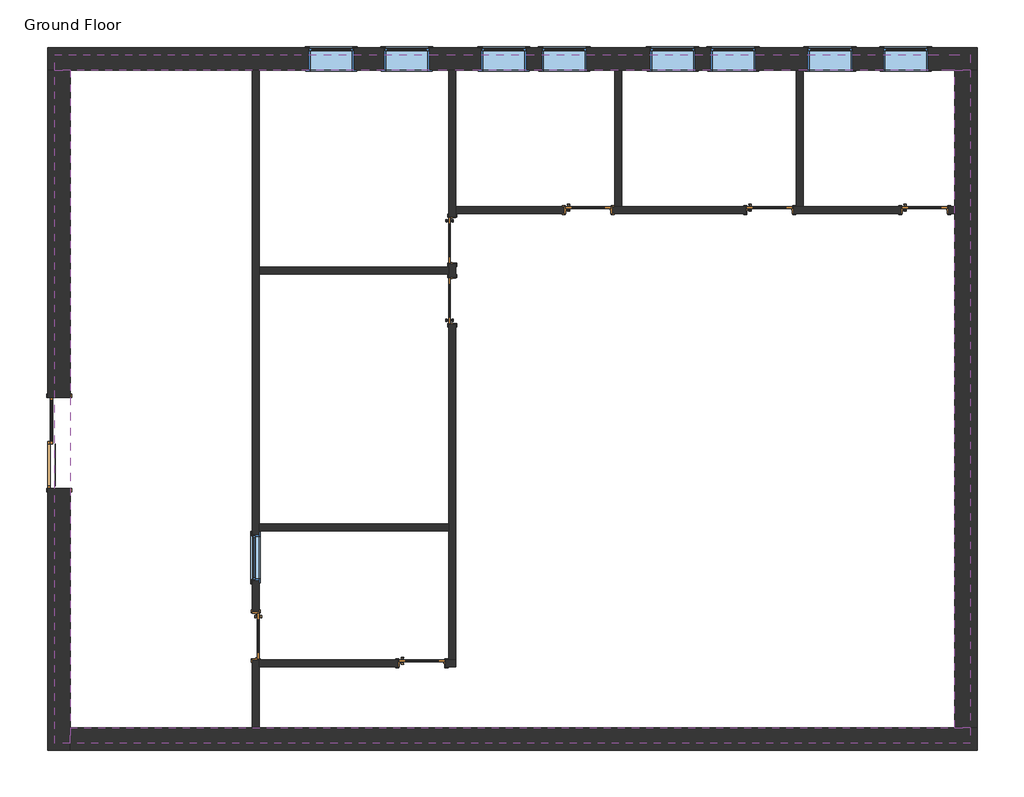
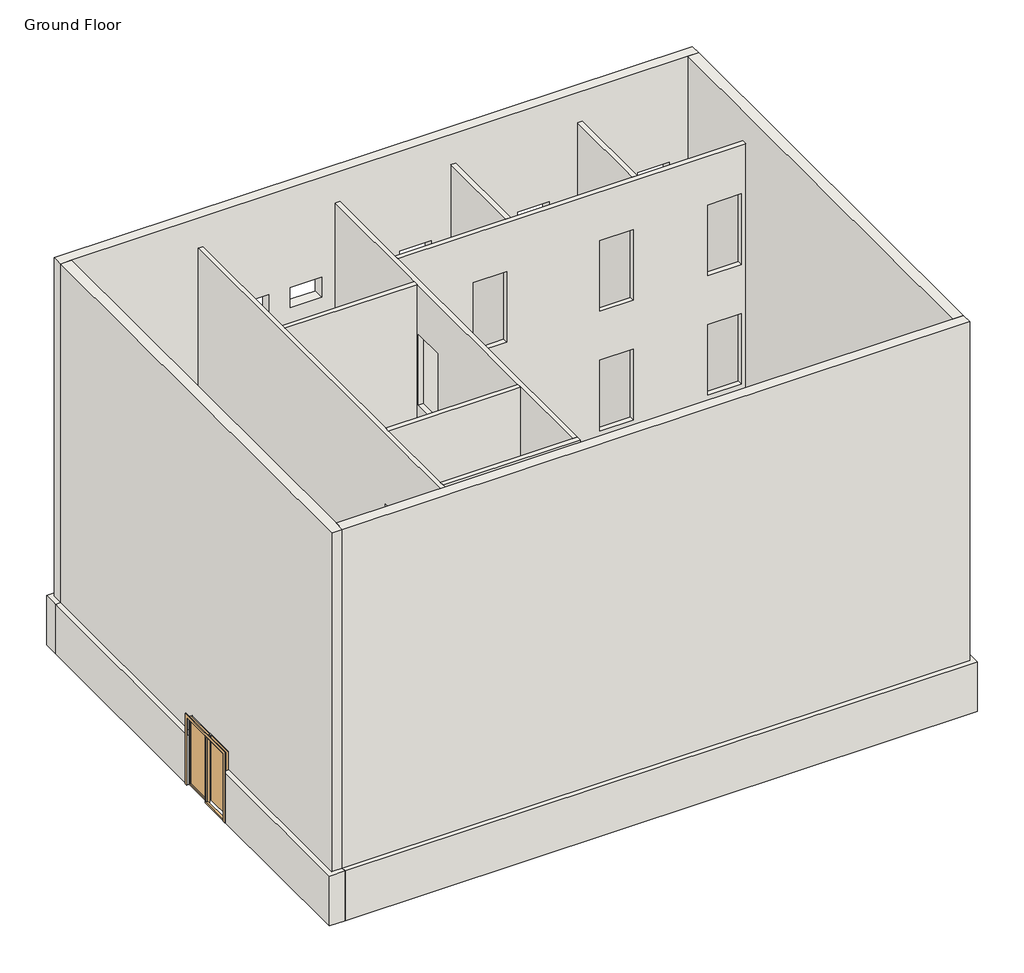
# One storey: 16 walls, 9 windows, 8 doors.
"""IFC4 building model written with IfcOpenShell, lengths in millimetres."""

from ifc_helpers import new_model, si_unit, frame, origin, origin_with_axes, place, context, project, spatial, polyline, outline, extrude, faceted_brep, transform, mapped, element, save
from components import door_82242614, door_918c180d, door_79dd3e86, window_d9bd7f0d, window_f406ef81, window_70ae8583

model = new_model("IFC4")

# Units and contexts
model_context = context("Model", 3, world=origin())
ifc_project = project(units=[si_unit("LENGTHUNIT", "METRE", prefix="MILLI")], contexts=[model_context])

# Site, building, storey
site = spatial("IfcSite", under=ifc_project)
building = spatial("IfcBuilding", under=site)
storey = spatial("IfcBuildingStorey", under=building, Name="Ground Floor", Elevation=0.0)

# Doors
placement = place(None, origin())
door_shape = door_82242614(model_context)
element("IfcDoor", 1, ObjectType="Door-Double-Sliding : 72\" x 82\"", at=placement, inside=storey, context=model_context, shape_type="MappedRepresentation", body=[
    mapped(door_shape, transform((-6006.9019416, 2157.0728101, 0.0), x_axis=(0.0, 1.0, 0.0), y_axis=(-1.0, 0.0, 0.0), z_axis=(0.0, 0.0, 1.0))),
])
door_2_shape = door_918c180d(model_context)
element("IfcDoor", 2, ObjectType="Door-Interior-Single-Full Glass-Wood : 36\" x 84\"", at=placement, inside=storey, context=model_context, shape_type="MappedRepresentation", body=[
    mapped(door_2_shape, transform((-2168.3269416, -1737.6636161, 0.0), x_axis=(0.0, -1.0, 0.0), y_axis=(1.0, 0.0, 0.0), z_axis=(0.0, 0.0, 1.0))),
])
element("IfcDoor", 3, ObjectType="Door-Interior-Single-Full Glass-Wood : 36\" x 84\"", at=placement, inside=storey, context=model_context, shape_type="MappedRepresentation", body=[
    mapped(door_2_shape, transform((1181.2980584, -2286.9386161, 0.0), x_axis=(1.0, 0.0, 0.0), y_axis=(0.0, 1.0, 0.0), z_axis=(0.0, 0.0, 1.0))),
])
element("IfcDoor", 4, ObjectType="Door-Interior-Single-Full Glass-Wood : 36\" x 84\"", at=placement, inside=storey, context=model_context, shape_type="MappedRepresentation", body=[
    mapped(door_2_shape, transform((1787.7230584, 5025.0863839, 0.0), x_axis=(0.0, 1.0, 0.0), y_axis=(-1.0, 0.0, 0.0), z_axis=(0.0, 0.0, 1.0))),
])
element("IfcDoor", 5, ObjectType="Door-Interior-Single-Full Glass-Wood : 36\" x 84\"", at=placement, inside=storey, context=model_context, shape_type="MappedRepresentation", body=[
    mapped(door_2_shape, transform((4534.0980584, 6857.0613839, 0.0), x_axis=(1.0, 0.0, 0.0), y_axis=(0.0, 1.0, 0.0), z_axis=(0.0, 0.0, 1.0))),
])
element("IfcDoor", 6, ObjectType="Door-Interior-Single-Full Glass-Wood : 36\" x 84\"", at=placement, inside=storey, context=model_context, shape_type="MappedRepresentation", body=[
    mapped(door_2_shape, transform((8191.6980584, 6857.0613839, 0.0), x_axis=(1.0, 0.0, 0.0), y_axis=(0.0, 1.0, 0.0), z_axis=(0.0, 0.0, 1.0))),
])
element("IfcDoor", 7, ObjectType="Door-Interior-Single-Full Glass-Wood : 36\" x 84\"", at=placement, inside=storey, context=model_context, shape_type="MappedRepresentation", body=[
    mapped(door_2_shape, transform((11317.4855584, 6857.0613839, 0.0), x_axis=(1.0, 0.0, 0.0), y_axis=(0.0, 1.0, 0.0), z_axis=(0.0, 0.0, 1.0))),
])
door_3_shape = door_79dd3e86(model_context)
element("IfcDoor", 8, ObjectType="Door-Interior-Single-Full Glass-Wood : 36\" x 84\"", at=placement, inside=storey, context=model_context, shape_type="MappedRepresentation", body=[
    mapped(door_3_shape, transform((1787.7230584, 6244.2863839, 0.0), x_axis=(0.0, -1.0, 0.0), y_axis=(1.0, 0.0, 0.0), z_axis=(0.0, 0.0, 1.0))),
])

# Walls
element("IfcWall", 9, ObjectType="Exterior - CMU on Mtl. Stud", at=placement, inside=storey, context=model_context, shape_type="Brep", body=[
    faceted_brep([(-6360.9144416, 9674.8738839, 0.0), (-5906.8894416, 9674.8738839, 0.0), (-2241.3519416, 9674.8738839, 0.0), (-2101.6519416, 9674.8738839, 0.0), (1721.0480584, 9674.8738839, 0.0), (1860.7480584, 9674.8738839, 0.0), (5073.8480584, 9674.8738839, 0.0), (5213.5480584, 9674.8738839, 0.0), (8731.4480584, 9674.8738839, 0.0), (8871.1480584, 9674.8738839, 0.0), (11927.0855584, 9674.8738839, 0.0), (12381.1105584, 9674.8738839, 0.0), (12381.1105584, 9674.8738839, 1524.0), (12238.2355584, 9674.8738839, 1524.0), (11927.0855584, 9674.8738839, 1524.0), (11392.0980584, 9674.8738839, 1524.0), (11392.0980584, 9674.8738839, 914.4), (10477.6980584, 9674.8738839, 914.4), (10477.6980584, 9674.8738839, 1524.0), (9868.0980584, 9674.8738839, 1524.0), (9868.0980584, 9674.8738839, 914.4), (8953.6980584, 9674.8738839, 914.4), (8953.6980584, 9674.8738839, 1524.0), (7912.2980584, 9674.8738839, 1524.0), (7912.2980584, 9674.8738839, 914.4), (6997.8980584, 9674.8738839, 914.4), (6997.8980584, 9674.8738839, 1524.0), (6693.0980584, 9674.8738839, 1524.0), (6693.0980584, 9674.8738839, 914.4), (5778.6980584, 9674.8738839, 914.4), (5778.6980584, 9674.8738839, 1524.0), (4508.6980584, 9674.8738839, 1524.0), (4508.6980584, 9674.8738839, 914.4), (3594.2980584, 9674.8738839, 914.4), (3594.2980584, 9674.8738839, 1524.0), (3289.4980584, 9674.8738839, 1524.0), (3289.4980584, 9674.8738839, 914.4), (2375.0980584, 9674.8738839, 914.4), (2375.0980584, 9674.8738839, 1524.0), (1333.6980584, 9674.8738839, 1524.0), (1333.6980584, 9674.8738839, 914.4), (419.2980584, 9674.8738839, 914.4), (419.2980584, 9674.8738839, 1524.0), (-190.3019416, 9674.8738839, 1524.0), (-190.3019416, 9674.8738839, 914.4), (-1104.7019416, 9674.8738839, 914.4), (-1104.7019416, 9674.8738839, 1524.0), (-5906.8894416, 9674.8738839, 1524.0), (-6218.0394416, 9674.8738839, 1524.0), (-6360.9144416, 9674.8738839, 1524.0), (12381.1105584, 10128.8988839, 0.0), (-6360.9144416, 10128.8988839, 0.0), (-6360.9144416, 10128.8988839, 1524.0), (-1104.7019416, 10128.8988839, 1524.0), (-1104.7019416, 10128.8988839, 914.4), (-190.3019416, 10128.8988839, 914.4), (-190.3019416, 10128.8988839, 1524.0), (419.2980584, 10128.8988839, 1524.0), (419.2980584, 10128.8988839, 914.4), (1333.6980584, 10128.8988839, 914.4), (1333.6980584, 10128.8988839, 1524.0), (2375.0980584, 10128.8988839, 1524.0), (2375.0980584, 10128.8988839, 914.4), (3289.4980584, 10128.8988839, 914.4), (3289.4980584, 10128.8988839, 1524.0), (3594.2980584, 10128.8988839, 1524.0), (3594.2980584, 10128.8988839, 914.4), (4508.6980584, 10128.8988839, 914.4), (4508.6980584, 10128.8988839, 1524.0), (5778.6980584, 10128.8988839, 1524.0), (5778.6980584, 10128.8988839, 914.4), (6693.0980584, 10128.8988839, 914.4), (6693.0980584, 10128.8988839, 1524.0), (6997.8980584, 10128.8988839, 1524.0), (6997.8980584, 10128.8988839, 914.4), (7912.2980584, 10128.8988839, 914.4), (7912.2980584, 10128.8988839, 1524.0), (8953.6980584, 10128.8988839, 1524.0), (8953.6980584, 10128.8988839, 914.4), (9868.0980584, 10128.8988839, 914.4), (9868.0980584, 10128.8988839, 1524.0), (10477.6980584, 10128.8988839, 1524.0), (10477.6980584, 10128.8988839, 914.4), (11392.0980584, 10128.8988839, 914.4), (11392.0980584, 10128.8988839, 1524.0), (12381.1105584, 10128.8988839, 1524.0)], [[[0, 1, 2, 3, 4, 5, 6, 7, 8, 9, 10, 11, 12, 13, 14, 15, 16, 17, 18, 19, 20, 21, 22, 23, 24, 25, 26, 27, 28, 29, 30, 31, 32, 33, 34, 35, 36, 37, 38, 39, 40, 41, 42, 43, 44, 45, 46, 47, 48, 49]], [[50, 51, 52, 53, 54, 55, 56, 57, 58, 59, 60, 61, 62, 63, 64, 65, 66, 67, 68, 69, 70, 71, 72, 73, 74, 75, 76, 77, 78, 79, 80, 81, 82, 83, 84, 85]], [[11, 10, 9, 8, 7, 6, 5, 4, 3, 2, 1, 0, 51, 50]], [[52, 49, 48, 47, 46, 53]], [[12, 85, 84, 15, 14, 13]], [[80, 19, 18, 81]], [[22, 77, 76, 23]], [[72, 27, 26, 73]], [[30, 69, 68, 31]], [[38, 61, 60, 39]], [[64, 35, 34, 65]], [[56, 43, 42, 57]], [[0, 49, 52, 51]], [[12, 11, 50, 85]], [[79, 20, 19, 80]], [[20, 79, 78, 21]], [[21, 78, 77, 22]], [[83, 16, 15, 84]], [[16, 83, 82, 17]], [[17, 82, 81, 18]], [[71, 28, 27, 72]], [[28, 71, 70, 29]], [[29, 70, 69, 30]], [[75, 24, 23, 76]], [[24, 75, 74, 25]], [[25, 74, 73, 26]], [[37, 62, 61, 38]], [[62, 37, 36, 63]], [[63, 36, 35, 64]], [[33, 66, 65, 34]], [[66, 33, 32, 67]], [[67, 32, 31, 68]], [[45, 54, 53, 46]], [[54, 45, 44, 55]], [[55, 44, 43, 56]], [[41, 58, 57, 42]], [[58, 41, 40, 59]], [[59, 40, 39, 60]]]),
])
element("IfcWall", 10, ObjectType="Exterior - CMU on Mtl. Stud", at=placement, inside=storey, context=model_context, shape_type="Brep", body=[
    faceted_brep([(-5906.8894416, 9674.8738839, 0.0), (-5906.8894416, 9674.8738839, 1524.0), (-5906.8894416, 3071.4728101, 1524.0), (-5906.8894416, 3071.4728101, 0.0), (-6360.9144416, 9674.8738839, 1524.0), (-6360.9144416, 9674.8738839, 0.0), (-6360.9144416, 3071.4728101, 0.0), (-6360.9144416, 3071.4728101, 1524.0), (-6218.0394416, 9674.8738839, 1524.0), (-6218.0394416, 3071.4728101, 1524.0)], [[[0, 1, 2, 3]], [[4, 5, 6, 7]], [[5, 0, 3, 6]], [[1, 8, 4, 7, 9, 2]], [[1, 0, 5, 4, 8]], [[3, 2, 9, 7, 6]]]),
    faceted_brep([(-5906.8894416, -4041.1261161, 1524.0), (-5906.8894416, -4041.1261161, 0.0), (-5906.8894416, -3587.1011161, 0.0), (-5906.8894416, 1242.6728101, 0.0), (-5906.8894416, 1242.6728101, 1524.0), (-5906.8894416, -3587.1011161, 1524.0), (-5906.8894416, -3898.2511161, 1524.0), (-6360.9144416, -4041.1261161, 0.0), (-6360.9144416, -4041.1261161, 1524.0), (-6360.9144416, 1242.6728101, 1524.0), (-6360.9144416, 1242.6728101, 0.0), (-6218.0394416, 1242.6728101, 1524.0)], [[[0, 1, 2, 3, 4, 5, 6]], [[7, 8, 9, 10]], [[1, 7, 10, 3, 2]], [[8, 0, 6, 5, 4, 11, 9]], [[1, 0, 8, 7]], [[4, 3, 10, 9, 11]]]),
])
element("IfcWall", 11, ObjectType="Exterior - CMU on Mtl. Stud", at=placement, inside=storey, context=model_context, shape_type="Brep", body=[
    faceted_brep([(12381.1105584, -3587.1011161, 0.0), (11927.0855584, -3587.1011161, 0.0), (-2101.6519416, -3587.1011161, 0.0), (-2241.3519416, -3587.1011161, 0.0), (-5906.8894416, -3587.1011161, 0.0), (-5906.8894416, -3587.1011161, 1524.0), (11927.0855584, -3587.1011161, 1524.0), (12238.2355584, -3587.1011161, 1524.0), (12381.1105584, -3587.1011161, 1524.0), (12381.1105584, -4041.1261161, 0.0), (12381.1105584, -4041.1261161, 1524.0), (-5906.8894416, -4041.1261161, 1524.0), (-5906.8894416, -4041.1261161, 0.0), (-5906.8894416, -3898.2511161, 1524.0)], [[[0, 1, 2, 3, 4, 5, 6, 7, 8]], [[9, 10, 11, 12]], [[4, 3, 2, 1, 0, 9, 12]], [[8, 7, 6, 5, 13, 11, 10]], [[0, 8, 10, 9]], [[5, 4, 12, 11, 13]]]),
])
element("IfcWall", 12, ObjectType="Exterior - CMU on Mtl. Stud", at=placement, inside=storey, context=model_context, shape_type="Brep", body=[
    faceted_brep([(11927.0855584, 9674.8738839, 0.0), (11927.0855584, 6923.7363839, 0.0), (11927.0855584, 6784.0363839, 0.0), (11927.0855584, -3587.1011161, 0.0), (11927.0855584, -3587.1011161, 1524.0), (11927.0855584, 9674.8738839, 1524.0), (12381.1105584, 9674.8738839, 0.0), (12381.1105584, 9674.8738839, 1524.0), (12381.1105584, -3587.1011161, 1524.0), (12381.1105584, -3587.1011161, 0.0), (12238.2355584, -3587.1011161, 1524.0), (12238.2355584, 9674.8738839, 1524.0)], [[[0, 1, 2, 3, 4, 5]], [[6, 7, 8, 9]], [[3, 2, 1, 0, 6, 9]], [[5, 4, 10, 8, 7, 11]], [[0, 5, 11, 7, 6]], [[4, 3, 9, 8, 10]]]),
])
element("IfcWall", 13, ObjectType="Exterior - EIFS on Mtl. Stud", at=placement, inside=storey, context=model_context, shape_type="Brep", body=[
    faceted_brep([(-6218.0394416, 9674.8738839, 1524.0), (-5906.8894416, 9674.8738839, 1524.0), (-1104.7019416, 9674.8738839, 1524.0), (-190.3019416, 9674.8738839, 1524.0), (419.2980584, 9674.8738839, 1524.0), (1333.6980584, 9674.8738839, 1524.0), (2375.0980584, 9674.8738839, 1524.0), (3289.4980584, 9674.8738839, 1524.0), (3594.2980584, 9674.8738839, 1524.0), (4508.6980584, 9674.8738839, 1524.0), (5778.6980584, 9674.8738839, 1524.0), (6693.0980584, 9674.8738839, 1524.0), (6997.8980584, 9674.8738839, 1524.0), (7912.2980584, 9674.8738839, 1524.0), (8953.6980584, 9674.8738839, 1524.0), (9868.0980584, 9674.8738839, 1524.0), (10477.6980584, 9674.8738839, 1524.0), (11392.0980584, 9674.8738839, 1524.0), (11927.0855584, 9674.8738839, 1524.0), (12238.2355584, 9674.8738839, 1524.0), (12238.2355584, 9674.8738839, 11887.2), (11927.0855584, 9674.8738839, 11887.2), (-5906.8894416, 9674.8738839, 11887.2), (-6218.0394416, 9674.8738839, 11887.2), (2375.0980584, 9674.8738839, 4572.0), (2375.0980584, 9674.8738839, 5181.6), (3289.4980584, 9674.8738839, 5181.6), (3289.4980584, 9674.8738839, 4572.0), (3594.2980584, 9674.8738839, 4572.0), (3594.2980584, 9674.8738839, 5181.6), (4508.6980584, 9674.8738839, 5181.6), (4508.6980584, 9674.8738839, 4572.0), (-1104.7019416, 9674.8738839, 4572.0), (-1104.7019416, 9674.8738839, 5181.6), (-190.3019416, 9674.8738839, 5181.6), (-190.3019416, 9674.8738839, 4572.0), (419.2980584, 9674.8738839, 4572.0), (419.2980584, 9674.8738839, 5181.6), (1333.6980584, 9674.8738839, 5181.6), (1333.6980584, 9674.8738839, 4572.0), (7912.2980584, 9674.8738839, 5181.6), (7912.2980584, 9674.8738839, 4572.0), (6997.8980584, 9674.8738839, 4572.0), (6997.8980584, 9674.8738839, 5181.6), (6693.0980584, 9674.8738839, 5181.6), (6693.0980584, 9674.8738839, 4572.0), (5778.6980584, 9674.8738839, 4572.0), (5778.6980584, 9674.8738839, 5181.6), (11392.0980584, 9674.8738839, 5181.6), (11392.0980584, 9674.8738839, 4572.0), (10477.6980584, 9674.8738839, 4572.0), (10477.6980584, 9674.8738839, 5181.6), (9868.0980584, 9674.8738839, 5181.6), (9868.0980584, 9674.8738839, 4572.0), (8953.6980584, 9674.8738839, 4572.0), (8953.6980584, 9674.8738839, 5181.6), (2375.0980584, 9674.8738839, 8229.6), (2375.0980584, 9674.8738839, 8839.2), (3289.4980584, 9674.8738839, 8839.2), (3289.4980584, 9674.8738839, 8229.6), (3594.2980584, 9674.8738839, 8229.6), (3594.2980584, 9674.8738839, 8839.2), (4508.6980584, 9674.8738839, 8839.2), (4508.6980584, 9674.8738839, 8229.6), (-1104.7019416, 9674.8738839, 8229.6), (-1104.7019416, 9674.8738839, 8839.2), (-190.3019416, 9674.8738839, 8839.2), (-190.3019416, 9674.8738839, 8229.6), (419.2980584, 9674.8738839, 8229.6), (419.2980584, 9674.8738839, 8839.2), (1333.6980584, 9674.8738839, 8839.2), (1333.6980584, 9674.8738839, 8229.6), (7912.2980584, 9674.8738839, 8839.2), (7912.2980584, 9674.8738839, 8229.6), (6997.8980584, 9674.8738839, 8229.6), (6997.8980584, 9674.8738839, 8839.2), (6693.0980584, 9674.8738839, 8839.2), (6693.0980584, 9674.8738839, 8229.6), (5778.6980584, 9674.8738839, 8229.6), (5778.6980584, 9674.8738839, 8839.2), (11392.0980584, 9674.8738839, 8839.2), (11392.0980584, 9674.8738839, 8229.6), (10477.6980584, 9674.8738839, 8229.6), (10477.6980584, 9674.8738839, 8839.2), (9868.0980584, 9674.8738839, 8839.2), (9868.0980584, 9674.8738839, 8229.6), (8953.6980584, 9674.8738839, 8229.6), (8953.6980584, 9674.8738839, 8839.2), (12238.2355584, 9986.0238839, 1524.0), (-6218.0394416, 9986.0238839, 1524.0), (-6218.0394416, 9986.0238839, 11887.2), (12238.2355584, 9986.0238839, 11887.2), (2375.0980584, 9986.0238839, 5181.6), (2375.0980584, 9986.0238839, 4572.0), (3289.4980584, 9986.0238839, 4572.0), (3289.4980584, 9986.0238839, 5181.6), (3594.2980584, 9986.0238839, 5181.6), (3594.2980584, 9986.0238839, 4572.0), (4508.6980584, 9986.0238839, 4572.0), (4508.6980584, 9986.0238839, 5181.6), (-1104.7019416, 9986.0238839, 5181.6), (-1104.7019416, 9986.0238839, 4572.0), (-190.3019416, 9986.0238839, 4572.0), (-190.3019416, 9986.0238839, 5181.6), (419.2980584, 9986.0238839, 5181.6), (419.2980584, 9986.0238839, 4572.0), (1333.6980584, 9986.0238839, 4572.0), (1333.6980584, 9986.0238839, 5181.6), (7912.2980584, 9986.0238839, 4572.0), (7912.2980584, 9986.0238839, 5181.6), (6997.8980584, 9986.0238839, 5181.6), (6997.8980584, 9986.0238839, 4572.0), (6693.0980584, 9986.0238839, 4572.0), (6693.0980584, 9986.0238839, 5181.6), (5778.6980584, 9986.0238839, 5181.6), (5778.6980584, 9986.0238839, 4572.0), (11392.0980584, 9986.0238839, 4572.0), (11392.0980584, 9986.0238839, 5181.6), (10477.6980584, 9986.0238839, 5181.6), (10477.6980584, 9986.0238839, 4572.0), (9868.0980584, 9986.0238839, 4572.0), (9868.0980584, 9986.0238839, 5181.6), (8953.6980584, 9986.0238839, 5181.6), (8953.6980584, 9986.0238839, 4572.0), (2375.0980584, 9986.0238839, 8839.2), (2375.0980584, 9986.0238839, 8229.6), (3289.4980584, 9986.0238839, 8229.6), (3289.4980584, 9986.0238839, 8839.2), (3594.2980584, 9986.0238839, 8839.2), (3594.2980584, 9986.0238839, 8229.6), (4508.6980584, 9986.0238839, 8229.6), (4508.6980584, 9986.0238839, 8839.2), (-1104.7019416, 9986.0238839, 8839.2), (-1104.7019416, 9986.0238839, 8229.6), (-190.3019416, 9986.0238839, 8229.6), (-190.3019416, 9986.0238839, 8839.2), (419.2980584, 9986.0238839, 8839.2), (419.2980584, 9986.0238839, 8229.6), (1333.6980584, 9986.0238839, 8229.6), (1333.6980584, 9986.0238839, 8839.2), (7912.2980584, 9986.0238839, 8229.6), (7912.2980584, 9986.0238839, 8839.2), (6997.8980584, 9986.0238839, 8839.2), (6997.8980584, 9986.0238839, 8229.6), (6693.0980584, 9986.0238839, 8229.6), (6693.0980584, 9986.0238839, 8839.2), (5778.6980584, 9986.0238839, 8839.2), (5778.6980584, 9986.0238839, 8229.6), (11392.0980584, 9986.0238839, 8229.6), (11392.0980584, 9986.0238839, 8839.2), (10477.6980584, 9986.0238839, 8839.2), (10477.6980584, 9986.0238839, 8229.6), (9868.0980584, 9986.0238839, 8229.6), (9868.0980584, 9986.0238839, 8839.2), (8953.6980584, 9986.0238839, 8839.2), (8953.6980584, 9986.0238839, 8229.6)], [[[0, 1, 2, 3, 4, 5, 6, 7, 8, 9, 10, 11, 12, 13, 14, 15, 16, 17, 18, 19, 20, 21, 22, 23], [24, 25, 26, 27], [28, 29, 30, 31], [32, 33, 34, 35], [36, 37, 38, 39], [40, 41, 42, 43], [44, 45, 46, 47], [48, 49, 50, 51], [52, 53, 54, 55], [56, 57, 58, 59], [60, 61, 62, 63], [64, 65, 66, 67], [68, 69, 70, 71], [72, 73, 74, 75], [76, 77, 78, 79], [80, 81, 82, 83], [84, 85, 86, 87]], [[88, 89, 90, 91], [92, 93, 94, 95], [96, 97, 98, 99], [100, 101, 102, 103], [104, 105, 106, 107], [108, 109, 110, 111], [112, 113, 114, 115], [116, 117, 118, 119], [120, 121, 122, 123], [124, 125, 126, 127], [128, 129, 130, 131], [132, 133, 134, 135], [136, 137, 138, 139], [140, 141, 142, 143], [144, 145, 146, 147], [148, 149, 150, 151], [152, 153, 154, 155]], [[19, 18, 17, 16, 15, 14, 13, 12, 11, 10, 9, 8, 7, 6, 5, 4, 3, 2, 1, 0, 89, 88]], [[23, 22, 21, 20, 91, 90]], [[0, 23, 90, 89]], [[20, 19, 88, 91]], [[92, 25, 24, 93]], [[93, 24, 27, 94]], [[94, 27, 26, 95]], [[25, 92, 95, 26]], [[96, 29, 28, 97]], [[97, 28, 31, 98]], [[98, 31, 30, 99]], [[29, 96, 99, 30]], [[100, 33, 32, 101]], [[101, 32, 35, 102]], [[102, 35, 34, 103]], [[33, 100, 103, 34]], [[104, 37, 36, 105]], [[105, 36, 39, 106]], [[106, 39, 38, 107]], [[37, 104, 107, 38]], [[40, 109, 108, 41]], [[41, 108, 111, 42]], [[42, 111, 110, 43]], [[109, 40, 43, 110]], [[44, 113, 112, 45]], [[45, 112, 115, 46]], [[46, 115, 114, 47]], [[113, 44, 47, 114]], [[48, 117, 116, 49]], [[49, 116, 119, 50]], [[50, 119, 118, 51]], [[117, 48, 51, 118]], [[52, 121, 120, 53]], [[53, 120, 123, 54]], [[54, 123, 122, 55]], [[121, 52, 55, 122]], [[124, 57, 56, 125]], [[125, 56, 59, 126]], [[126, 59, 58, 127]], [[57, 124, 127, 58]], [[128, 61, 60, 129]], [[129, 60, 63, 130]], [[130, 63, 62, 131]], [[61, 128, 131, 62]], [[132, 65, 64, 133]], [[133, 64, 67, 134]], [[134, 67, 66, 135]], [[65, 132, 135, 66]], [[136, 69, 68, 137]], [[137, 68, 71, 138]], [[138, 71, 70, 139]], [[69, 136, 139, 70]], [[72, 141, 140, 73]], [[73, 140, 143, 74]], [[74, 143, 142, 75]], [[141, 72, 75, 142]], [[76, 145, 144, 77]], [[77, 144, 147, 78]], [[78, 147, 146, 79]], [[145, 76, 79, 146]], [[80, 149, 148, 81]], [[81, 148, 151, 82]], [[82, 151, 150, 83]], [[149, 80, 83, 150]], [[84, 153, 152, 85]], [[85, 152, 155, 86]], [[86, 155, 154, 87]], [[153, 84, 87, 154]]]),
])
element("IfcWall", 14, ObjectType="Exterior - EIFS on Mtl. Stud", at=placement, inside=storey, context=model_context, shape_type="Brep", body=[
    faceted_brep([(-5906.8894416, 9674.8738839, 11887.2), (-5906.8894416, -3587.1011161, 11887.2), (-5906.8894416, -3898.2511161, 11887.2), (-5906.8894416, -3898.2511161, 1524.0), (-5906.8894416, -3587.1011161, 1524.0), (-5906.8894416, 1242.6728101, 1524.0), (-5906.8894416, 1242.6728101, 2082.8), (-5906.8894416, 3071.4728101, 2082.8), (-5906.8894416, 3071.4728101, 1524.0), (-5906.8894416, 9674.8738839, 1524.0), (-6218.0394416, -3898.2511161, 11887.2), (-6218.0394416, 9674.8738839, 11887.2), (-6218.0394416, 9674.8738839, 1524.0), (-6218.0394416, 3071.4728101, 1524.0), (-6218.0394416, 3071.4728101, 2082.8), (-6218.0394416, 1242.6728101, 2082.8), (-6218.0394416, 1242.6728101, 1524.0), (-6218.0394416, -3898.2511161, 1524.0)], [[[0, 1, 2, 3, 4, 5, 6, 7, 8, 9]], [[10, 11, 12, 13, 14, 15, 16, 17]], [[3, 17, 16, 5, 4]], [[12, 9, 8, 13]], [[2, 1, 0, 11, 10]], [[3, 2, 10, 17]], [[0, 9, 12, 11]], [[15, 6, 5, 16]], [[7, 14, 13, 8]], [[6, 15, 14, 7]]]),
])
element("IfcWall", 15, ObjectType="Exterior - EIFS on Mtl. Stud", at=placement, inside=storey, context=model_context, shape_type="Brep", body=[
    faceted_brep([(12238.2355584, -3587.1011161, 1524.0), (11927.0855584, -3587.1011161, 1524.0), (-5906.8894416, -3587.1011161, 1524.0), (-5906.8894416, -3587.1011161, 11887.2), (11927.0855584, -3587.1011161, 11887.2), (12238.2355584, -3587.1011161, 11887.2), (12238.2355584, -3898.2511161, 1524.0), (12238.2355584, -3898.2511161, 11887.2), (-5906.8894416, -3898.2511161, 11887.2), (-5906.8894416, -3898.2511161, 1524.0)], [[[0, 1, 2, 3, 4, 5]], [[6, 7, 8, 9]], [[2, 1, 0, 6, 9]], [[5, 4, 3, 8, 7]], [[0, 5, 7, 6]], [[3, 2, 9, 8]]]),
])
element("IfcWall", 16, ObjectType="Exterior - EIFS on Mtl. Stud", at=placement, inside=storey, context=model_context, shape_type="SweptSolid", body=[
    extrude(outline(polyline([(11927.0855584, -3587.1011161), (11927.0855584, 9674.8738839), (12238.2355584, 9674.8738839), (12238.2355584, -3587.1011161), (11927.0855584, -3587.1011161)])), frame((0.0, 0.0, 1524.0), z_axis=(0.0, 0.0, 1.0), x_axis=(1.0, 0.0, 0.0)), (0.0, 0.0, 1.0), 10363.2),
])
element("IfcWall", 17, ObjectType="Interior - 5 1/2\" Partition (1-hr)", at=placement, inside=storey, context=model_context, shape_type="Brep", body=[
    faceted_brep([(-2241.3519416, -3587.1011161, 10972.8), (-2241.3519416, 9674.8738839, 10972.8), (-2241.3519416, 9674.8738839, 0.0), (-2241.3519416, -1255.0636161, 0.0), (-2241.3519416, -1255.0636161, 2159.0), (-2241.3519416, -2220.2636161, 2159.0), (-2241.3519416, -2220.2636161, 0.0), (-2241.3519416, -3587.1011161, 0.0), (-2241.3519416, 300.6863839, 1524.0), (-2241.3519416, -613.7136161, 1524.0), (-2241.3519416, -613.7136161, 914.4), (-2241.3519416, 300.6863839, 914.4), (-2241.3519416, -2220.2636161, 3657.6), (-2241.3519416, -1255.0636161, 3657.6), (-2241.3519416, -1255.0636161, 5816.6), (-2241.3519416, -2220.2636161, 5816.6), (-2241.3519416, -2220.2636161, 7315.2), (-2241.3519416, -1255.0636161, 7315.2), (-2241.3519416, -1255.0636161, 9474.2), (-2241.3519416, -2220.2636161, 9474.2), (-2241.3519416, 300.6863839, 5181.6), (-2241.3519416, -613.7136161, 5181.6), (-2241.3519416, -613.7136161, 4572.0), (-2241.3519416, 300.6863839, 4572.0), (-2241.3519416, 300.6863839, 8839.2), (-2241.3519416, -613.7136161, 8839.2), (-2241.3519416, -613.7136161, 8229.6), (-2241.3519416, 300.6863839, 8229.6), (-2101.6519416, 9674.8738839, 10972.8), (-2101.6519416, 5704.5363839, 10972.8), (-2101.6519416, 5564.8363839, 10972.8), (-2101.6519416, 522.9363839, 10972.8), (-2101.6519416, 383.2363839, 10972.8), (-2101.6519416, -2220.2636161, 10972.8), (-2101.6519416, -2359.9636161, 10972.8), (-2101.6519416, -3587.1011161, 10972.8), (-2101.6519416, -3587.1011161, 0.0), (-2101.6519416, -2359.9636161, 0.0), (-2101.6519416, -2220.2636161, 0.0), (-2101.6519416, -2220.2636161, 2159.0), (-2101.6519416, -1255.0636161, 2159.0), (-2101.6519416, -1255.0636161, 0.0), (-2101.6519416, 383.2363839, 0.0), (-2101.6519416, 522.9363839, 0.0), (-2101.6519416, 5564.8363839, 0.0), (-2101.6519416, 5704.5363839, 0.0), (-2101.6519416, 9674.8738839, 0.0), (-2101.6519416, 300.6863839, 1524.0), (-2101.6519416, 300.6863839, 914.4), (-2101.6519416, -613.7136161, 914.4), (-2101.6519416, -613.7136161, 1524.0), (-2101.6519416, -2220.2636161, 3657.6), (-2101.6519416, -2220.2636161, 5816.6), (-2101.6519416, -1255.0636161, 5816.6), (-2101.6519416, -1255.0636161, 3657.6), (-2101.6519416, -2220.2636161, 7315.2), (-2101.6519416, -2220.2636161, 9474.2), (-2101.6519416, -1255.0636161, 9474.2), (-2101.6519416, -1255.0636161, 7315.2), (-2101.6519416, 300.6863839, 5181.6), (-2101.6519416, 300.6863839, 4572.0), (-2101.6519416, -613.7136161, 4572.0), (-2101.6519416, -613.7136161, 5181.6), (-2101.6519416, 300.6863839, 8839.2), (-2101.6519416, 300.6863839, 8229.6), (-2101.6519416, -613.7136161, 8229.6), (-2101.6519416, -613.7136161, 8839.2)], [[[0, 1, 2, 3, 4, 5, 6, 7], [8, 9, 10, 11], [12, 13, 14, 15], [16, 17, 18, 19], [20, 21, 22, 23], [24, 25, 26, 27]], [[28, 29, 30, 31, 32, 33, 34, 35, 36, 37, 38, 39, 40, 41, 42, 43, 44, 45, 46], [47, 48, 49, 50], [51, 52, 53, 54], [55, 56, 57, 58], [59, 60, 61, 62], [63, 64, 65, 66]], [[2, 46, 45, 44, 43, 42, 41, 3]], [[36, 7, 6, 38, 37]], [[1, 0, 35, 34, 33, 32, 31, 30, 29, 28]], [[46, 2, 1, 28]], [[7, 36, 35, 0]], [[5, 39, 38, 6]], [[39, 5, 4, 40]], [[40, 4, 3, 41]], [[48, 47, 8, 11]], [[49, 48, 11, 10]], [[50, 49, 10, 9]], [[47, 50, 9, 8]], [[52, 51, 12, 15]], [[53, 52, 15, 14]], [[54, 53, 14, 13]], [[51, 54, 13, 12]], [[56, 55, 16, 19]], [[57, 56, 19, 18]], [[58, 57, 18, 17]], [[55, 58, 17, 16]], [[60, 59, 20, 23]], [[61, 60, 23, 22]], [[62, 61, 22, 21]], [[59, 62, 21, 20]], [[64, 63, 24, 27]], [[65, 64, 27, 26]], [[66, 65, 26, 25]], [[63, 66, 25, 24]]]),
])
element("IfcWall", 18, ObjectType="Interior - 5 1/2\" Partition (1-hr)", at=placement, inside=storey, context=model_context, shape_type="Brep", body=[
    faceted_brep([(1860.7480584, -2359.9636161, 10972.8), (-2101.6519416, -2359.9636161, 10972.8), (-2101.6519416, -2359.9636161, 0.0), (698.6980584, -2359.9636161, 0.0), (698.6980584, -2359.9636161, 2159.0), (1663.8980584, -2359.9636161, 2159.0), (1663.8980584, -2359.9636161, 0.0), (1860.7480584, -2359.9636161, 0.0), (1663.8980584, -2359.9636161, 3657.6), (698.6980584, -2359.9636161, 3657.6), (698.6980584, -2359.9636161, 5816.6), (1663.8980584, -2359.9636161, 5816.6), (1663.8980584, -2359.9636161, 7315.2), (698.6980584, -2359.9636161, 7315.2), (698.6980584, -2359.9636161, 9474.2), (1663.8980584, -2359.9636161, 9474.2), (-2101.6519416, -2220.2636161, 10972.8), (1721.0480584, -2220.2636161, 10972.8), (1860.7480584, -2220.2636161, 10972.8), (1860.7480584, -2220.2636161, 0.0), (1721.0480584, -2220.2636161, 0.0), (1663.8980584, -2220.2636161, 0.0), (1663.8980584, -2220.2636161, 2159.0), (698.6980584, -2220.2636161, 2159.0), (698.6980584, -2220.2636161, 0.0), (-2101.6519416, -2220.2636161, 0.0), (-2101.6519416, -2220.2636161, 2159.0), (-2101.6519416, -2220.2636161, 3657.6), (-2101.6519416, -2220.2636161, 5816.6), (-2101.6519416, -2220.2636161, 7315.2), (-2101.6519416, -2220.2636161, 9474.2), (1663.8980584, -2220.2636161, 3657.6), (1663.8980584, -2220.2636161, 5816.6), (698.6980584, -2220.2636161, 5816.6), (698.6980584, -2220.2636161, 3657.6), (1663.8980584, -2220.2636161, 7315.2), (1663.8980584, -2220.2636161, 9474.2), (698.6980584, -2220.2636161, 9474.2), (698.6980584, -2220.2636161, 7315.2)], [[[0, 1, 2, 3, 4, 5, 6, 7], [8, 9, 10, 11], [12, 13, 14, 15]], [[16, 17, 18, 19, 20, 21, 22, 23, 24, 25, 26, 27, 28, 29, 30], [31, 32, 33, 34], [35, 36, 37, 38]], [[2, 25, 24, 3]], [[19, 7, 6, 21, 20]], [[1, 0, 18, 17, 16]], [[2, 1, 16, 30, 29, 28, 27, 26, 25]], [[0, 7, 19, 18]], [[5, 22, 21, 6]], [[22, 5, 4, 23]], [[23, 4, 3, 24]], [[32, 31, 8, 11]], [[33, 32, 11, 10]], [[34, 33, 10, 9]], [[31, 34, 9, 8]], [[36, 35, 12, 15]], [[37, 36, 15, 14]], [[38, 37, 14, 13]], [[35, 38, 13, 12]]]),
])
element("IfcWall", 19, ObjectType="Interior - 5 1/2\" Partition (1-hr)", at=placement, inside=storey, context=model_context, shape_type="Brep", body=[
    faceted_brep([(1860.7480584, 9674.8738839, 10972.8), (1860.7480584, 6923.7363839, 10972.8), (1860.7480584, 6784.0363839, 10972.8), (1860.7480584, -2220.2636161, 10972.8), (1860.7480584, -2220.2636161, 0.0), (1860.7480584, 4542.4863839, 0.0), (1860.7480584, 4542.4863839, 2159.0), (1860.7480584, 5507.6863839, 2159.0), (1860.7480584, 5507.6863839, 0.0), (1860.7480584, 5761.6863839, 0.0), (1860.7480584, 5761.6863839, 2159.0), (1860.7480584, 6726.8863839, 2159.0), (1860.7480584, 6726.8863839, 0.0), (1860.7480584, 6784.0363839, 0.0), (1860.7480584, 6923.7363839, 0.0), (1860.7480584, 9674.8738839, 0.0), (1860.7480584, 5761.6863839, 3657.6), (1860.7480584, 5761.6863839, 5816.6), (1860.7480584, 6726.8863839, 5816.6), (1860.7480584, 6726.8863839, 3657.6), (1860.7480584, 5507.6863839, 3657.6), (1860.7480584, 4542.4863839, 3657.6), (1860.7480584, 4542.4863839, 5816.6), (1860.7480584, 5507.6863839, 5816.6), (1860.7480584, 5761.6863839, 7315.2), (1860.7480584, 5761.6863839, 9474.2), (1860.7480584, 6726.8863839, 9474.2), (1860.7480584, 6726.8863839, 7315.2), (1860.7480584, 5507.6863839, 7315.2), (1860.7480584, 4542.4863839, 7315.2), (1860.7480584, 4542.4863839, 9474.2), (1860.7480584, 5507.6863839, 9474.2), (1721.0480584, -2220.2636161, 10972.8), (1721.0480584, 383.2363839, 10972.8), (1721.0480584, 522.9363839, 10972.8), (1721.0480584, 5564.8363839, 10972.8), (1721.0480584, 5704.5363839, 10972.8), (1721.0480584, 9674.8738839, 10972.8), (1721.0480584, 9674.8738839, 0.0), (1721.0480584, 6726.8863839, 0.0), (1721.0480584, 6726.8863839, 2159.0), (1721.0480584, 5761.6863839, 2159.0), (1721.0480584, 5761.6863839, 0.0), (1721.0480584, 5704.5363839, 0.0), (1721.0480584, 5564.8363839, 0.0), (1721.0480584, 5507.6863839, 0.0), (1721.0480584, 5507.6863839, 2159.0), (1721.0480584, 4542.4863839, 2159.0), (1721.0480584, 4542.4863839, 0.0), (1721.0480584, 522.9363839, 0.0), (1721.0480584, 383.2363839, 0.0), (1721.0480584, -2220.2636161, 0.0), (1721.0480584, 5761.6863839, 3657.6), (1721.0480584, 6726.8863839, 3657.6), (1721.0480584, 6726.8863839, 5816.6), (1721.0480584, 5761.6863839, 5816.6), (1721.0480584, 5507.6863839, 3657.6), (1721.0480584, 5507.6863839, 5816.6), (1721.0480584, 4542.4863839, 5816.6), (1721.0480584, 4542.4863839, 3657.6), (1721.0480584, 5761.6863839, 7315.2), (1721.0480584, 6726.8863839, 7315.2), (1721.0480584, 6726.8863839, 9474.2), (1721.0480584, 5761.6863839, 9474.2), (1721.0480584, 5507.6863839, 7315.2), (1721.0480584, 5507.6863839, 9474.2), (1721.0480584, 4542.4863839, 9474.2), (1721.0480584, 4542.4863839, 7315.2)], [[[0, 1, 2, 3, 4, 5, 6, 7, 8, 9, 10, 11, 12, 13, 14, 15], [16, 17, 18, 19], [20, 21, 22, 23], [24, 25, 26, 27], [28, 29, 30, 31]], [[32, 33, 34, 35, 36, 37, 38, 39, 40, 41, 42, 43, 44, 45, 46, 47, 48, 49, 50, 51], [52, 53, 54, 55], [56, 57, 58, 59], [60, 61, 62, 63], [64, 65, 66, 67]], [[4, 51, 50, 49, 48, 5]], [[38, 15, 14, 13, 12, 39]], [[8, 45, 44, 43, 42, 9]], [[3, 2, 1, 0, 37, 36, 35, 34, 33, 32]], [[4, 3, 32, 51]], [[15, 38, 37, 0]], [[7, 46, 45, 8]], [[46, 7, 6, 47]], [[47, 6, 5, 48]], [[41, 10, 9, 42]], [[10, 41, 40, 11]], [[11, 40, 39, 12]], [[17, 16, 52, 55]], [[18, 17, 55, 54]], [[19, 18, 54, 53]], [[16, 19, 53, 52]], [[57, 56, 20, 23]], [[58, 57, 23, 22]], [[59, 58, 22, 21]], [[56, 59, 21, 20]], [[25, 24, 60, 63]], [[26, 25, 63, 62]], [[27, 26, 62, 61]], [[24, 27, 61, 60]], [[65, 64, 28, 31]], [[66, 65, 31, 30]], [[67, 66, 30, 29]], [[64, 67, 29, 28]]]),
])
element("IfcWall", 20, ObjectType="Interior - 5 1/2\" Partition (1-hr)", at=placement, inside=storey, context=model_context, shape_type="Brep", body=[
    faceted_brep([(11927.0855584, 6784.0363839, 10972.8), (1860.7480584, 6784.0363839, 10972.8), (1860.7480584, 6784.0363839, 0.0), (4051.4980584, 6784.0363839, 0.0), (4051.4980584, 6784.0363839, 2159.0), (5016.6980584, 6784.0363839, 2159.0), (5016.6980584, 6784.0363839, 0.0), (7709.0980584, 6784.0363839, 0.0), (7709.0980584, 6784.0363839, 2159.0), (8674.2980584, 6784.0363839, 2159.0), (8674.2980584, 6784.0363839, 0.0), (10834.8855584, 6784.0363839, 0.0), (10834.8855584, 6784.0363839, 2159.0), (11800.0855584, 6784.0363839, 2159.0), (11800.0855584, 6784.0363839, 0.0), (11927.0855584, 6784.0363839, 0.0), (11800.0855584, 6784.0363839, 3657.6), (10834.8855584, 6784.0363839, 3657.6), (10834.8855584, 6784.0363839, 5816.6), (11800.0855584, 6784.0363839, 5816.6), (8674.2980584, 6784.0363839, 3657.6), (7709.0980584, 6784.0363839, 3657.6), (7709.0980584, 6784.0363839, 5816.6), (8674.2980584, 6784.0363839, 5816.6), (5016.6980584, 6784.0363839, 3657.6), (4051.4980584, 6784.0363839, 3657.6), (4051.4980584, 6784.0363839, 5816.6), (5016.6980584, 6784.0363839, 5816.6), (11800.0855584, 6784.0363839, 7315.2), (10834.8855584, 6784.0363839, 7315.2), (10834.8855584, 6784.0363839, 9474.2), (11800.0855584, 6784.0363839, 9474.2), (8674.2980584, 6784.0363839, 7315.2), (7709.0980584, 6784.0363839, 7315.2), (7709.0980584, 6784.0363839, 9474.2), (8674.2980584, 6784.0363839, 9474.2), (5016.6980584, 6784.0363839, 7315.2), (4051.4980584, 6784.0363839, 7315.2), (4051.4980584, 6784.0363839, 9474.2), (5016.6980584, 6784.0363839, 9474.2), (1860.7480584, 6923.7363839, 10972.8), (5073.8480584, 6923.7363839, 10972.8), (5213.5480584, 6923.7363839, 10972.8), (8731.4480584, 6923.7363839, 10972.8), (8871.1480584, 6923.7363839, 10972.8), (11927.0855584, 6923.7363839, 10972.8), (11927.0855584, 6923.7363839, 0.0), (11800.0855584, 6923.7363839, 0.0), (11800.0855584, 6923.7363839, 2159.0), (10834.8855584, 6923.7363839, 2159.0), (10834.8855584, 6923.7363839, 0.0), (8871.1480584, 6923.7363839, 0.0), (8731.4480584, 6923.7363839, 0.0), (8674.2980584, 6923.7363839, 0.0), (8674.2980584, 6923.7363839, 2159.0), (7709.0980584, 6923.7363839, 2159.0), (7709.0980584, 6923.7363839, 0.0), (5213.5480584, 6923.7363839, 0.0), (5073.8480584, 6923.7363839, 0.0), (5016.6980584, 6923.7363839, 0.0), (5016.6980584, 6923.7363839, 2159.0), (4051.4980584, 6923.7363839, 2159.0), (4051.4980584, 6923.7363839, 0.0), (1860.7480584, 6923.7363839, 0.0), (11800.0855584, 6923.7363839, 3657.6), (11800.0855584, 6923.7363839, 5816.6), (10834.8855584, 6923.7363839, 5816.6), (10834.8855584, 6923.7363839, 3657.6), (8674.2980584, 6923.7363839, 3657.6), (8674.2980584, 6923.7363839, 5816.6), (7709.0980584, 6923.7363839, 5816.6), (7709.0980584, 6923.7363839, 3657.6), (5016.6980584, 6923.7363839, 3657.6), (5016.6980584, 6923.7363839, 5816.6), (4051.4980584, 6923.7363839, 5816.6), (4051.4980584, 6923.7363839, 3657.6), (11800.0855584, 6923.7363839, 7315.2), (11800.0855584, 6923.7363839, 9474.2), (10834.8855584, 6923.7363839, 9474.2), (10834.8855584, 6923.7363839, 7315.2), (8674.2980584, 6923.7363839, 7315.2), (8674.2980584, 6923.7363839, 9474.2), (7709.0980584, 6923.7363839, 9474.2), (7709.0980584, 6923.7363839, 7315.2), (5016.6980584, 6923.7363839, 7315.2), (5016.6980584, 6923.7363839, 9474.2), (4051.4980584, 6923.7363839, 9474.2), (4051.4980584, 6923.7363839, 7315.2)], [[[0, 1, 2, 3, 4, 5, 6, 7, 8, 9, 10, 11, 12, 13, 14, 15], [16, 17, 18, 19], [20, 21, 22, 23], [24, 25, 26, 27], [28, 29, 30, 31], [32, 33, 34, 35], [36, 37, 38, 39]], [[40, 41, 42, 43, 44, 45, 46, 47, 48, 49, 50, 51, 52, 53, 54, 55, 56, 57, 58, 59, 60, 61, 62, 63], [64, 65, 66, 67], [68, 69, 70, 71], [72, 73, 74, 75], [76, 77, 78, 79], [80, 81, 82, 83], [84, 85, 86, 87]], [[2, 63, 62, 3]], [[46, 15, 14, 47]], [[6, 59, 58, 57, 56, 7]], [[10, 53, 52, 51, 50, 11]], [[1, 0, 45, 44, 43, 42, 41, 40]], [[15, 46, 45, 0]], [[2, 1, 40, 63]], [[5, 60, 59, 6]], [[60, 5, 4, 61]], [[61, 4, 3, 62]], [[9, 54, 53, 10]], [[54, 9, 8, 55]], [[55, 8, 7, 56]], [[13, 48, 47, 14]], [[48, 13, 12, 49]], [[49, 12, 11, 50]], [[65, 64, 16, 19]], [[66, 65, 19, 18]], [[67, 66, 18, 17]], [[64, 67, 17, 16]], [[69, 68, 20, 23]], [[70, 69, 23, 22]], [[71, 70, 22, 21]], [[68, 71, 21, 20]], [[73, 72, 24, 27]], [[74, 73, 27, 26]], [[75, 74, 26, 25]], [[72, 75, 25, 24]], [[77, 76, 28, 31]], [[78, 77, 31, 30]], [[79, 78, 30, 29]], [[76, 79, 29, 28]], [[81, 80, 32, 35]], [[82, 81, 35, 34]], [[83, 82, 34, 33]], [[80, 83, 33, 32]], [[85, 84, 36, 39]], [[86, 85, 39, 38]], [[87, 86, 38, 37]], [[84, 87, 37, 36]]]),
])
element("IfcWall", 21, ObjectType="Interior - 5 1/2\" Partition (1-hr)", at=placement, inside=storey, context=model_context, shape_type="SweptSolid", body=[
    extrude(outline(polyline([(8731.4480584, 6923.7363839), (8731.4480584, 9674.8738839), (8871.1480584, 9674.8738839), (8871.1480584, 6923.7363839), (8731.4480584, 6923.7363839)])), origin_with_axes(), (0.0, 0.0, 1.0), 10972.8),
])
element("IfcWall", 22, ObjectType="Interior - 5 1/2\" Partition (1-hr)", at=placement, inside=storey, context=model_context, shape_type="SweptSolid", body=[
    extrude(outline(polyline([(5073.8480584, 6923.7363839), (5073.8480584, 9674.8738839), (5213.5480584, 9674.8738839), (5213.5480584, 6923.7363839), (5073.8480584, 6923.7363839)])), origin_with_axes(), (0.0, 0.0, 1.0), 10972.8),
])
element("IfcWall", 23, ObjectType="Interior - 5 1/2\" Partition (1-hr)", at=placement, inside=storey, context=model_context, shape_type="SweptSolid", body=[
    extrude(outline(polyline([(1721.0480584, 5564.8363839), (-2101.6519416, 5564.8363839), (-2101.6519416, 5704.5363839), (1721.0480584, 5704.5363839), (1721.0480584, 5564.8363839)])), origin_with_axes(), (0.0, 0.0, 1.0), 10972.8),
])
element("IfcWall", 24, ObjectType="Interior - 5 1/2\" Partition (1-hr)", at=placement, inside=storey, context=model_context, shape_type="SweptSolid", body=[
    extrude(outline(polyline([(1721.0480584, 383.2363839), (-2101.6519416, 383.2363839), (-2101.6519416, 522.9363839), (1721.0480584, 522.9363839), (1721.0480584, 383.2363839)])), origin_with_axes(), (0.0, 0.0, 1.0), 10972.8),
])

# Windows
window_shape = window_d9bd7f0d(model_context)
element("IfcWindow", 25, ObjectType="Awning with Trim : 36\" x 24\"", at=placement, inside=storey, context=model_context, shape_type="MappedRepresentation", body=[
    mapped(window_shape, transform((-2171.5019416, -156.5136161, 0.0), x_axis=(0.0, 1.0, 0.0), y_axis=(-1.0, 0.0, 0.0), z_axis=(0.0, 0.0, 1.0))),
])
window_2_shape = window_f406ef81(model_context)
element("IfcWindow", 26, ObjectType="Awning with Trim : 36\" x 24\"", at=placement, inside=storey, context=model_context, shape_type="MappedRepresentation", body=[
    mapped(window_2_shape, transform((9410.8980584, 9901.8863839, 0.0), x_axis=(1.0, 0.0, 0.0), y_axis=(0.0, 1.0, 0.0), z_axis=(0.0, 0.0, 1.0))),
])
element("IfcWindow", 27, ObjectType="Awning with Trim : 36\" x 24\"", at=placement, inside=storey, context=model_context, shape_type="MappedRepresentation", body=[
    mapped(window_2_shape, transform((10934.8980584, 9901.8863839, 0.0), x_axis=(1.0, 0.0, 0.0), y_axis=(0.0, 1.0, 0.0), z_axis=(0.0, 0.0, 1.0))),
])
element("IfcWindow", 28, ObjectType="Awning with Trim : 36\" x 24\"", at=placement, inside=storey, context=model_context, shape_type="MappedRepresentation", body=[
    mapped(window_2_shape, transform((6235.8980584, 9901.8863839, 0.0), x_axis=(1.0, 0.0, 0.0), y_axis=(0.0, 1.0, 0.0), z_axis=(0.0, 0.0, 1.0))),
])
element("IfcWindow", 29, ObjectType="Awning with Trim : 36\" x 24\"", at=placement, inside=storey, context=model_context, shape_type="MappedRepresentation", body=[
    mapped(window_2_shape, transform((7455.0980584, 9901.8863839, 0.0), x_axis=(1.0, 0.0, 0.0), y_axis=(0.0, 1.0, 0.0), z_axis=(0.0, 0.0, 1.0))),
])
window_3_shape = window_70ae8583(model_context)
element("IfcWindow", 30, ObjectType="Awning with Trim : 36\" x 24\"", at=placement, inside=storey, context=model_context, shape_type="MappedRepresentation", body=[
    mapped(window_3_shape, transform((876.4980584, 9901.8863839, 0.0), x_axis=(-1.0, 0.0, 0.0), y_axis=(0.0, -1.0, 0.0), z_axis=(0.0, 0.0, 1.0))),
])
element("IfcWindow", 31, ObjectType="Awning with Trim : 36\" x 24\"", at=placement, inside=storey, context=model_context, shape_type="MappedRepresentation", body=[
    mapped(window_3_shape, transform((-647.5019416, 9901.8863839, 0.0), x_axis=(-1.0, 0.0, 0.0), y_axis=(0.0, -1.0, 0.0), z_axis=(0.0, 0.0, 1.0))),
])
element("IfcWindow", 32, ObjectType="Awning with Trim : 36\" x 24\"", at=placement, inside=storey, context=model_context, shape_type="MappedRepresentation", body=[
    mapped(window_3_shape, transform((4051.4980584, 9901.8863839, 0.0), x_axis=(-1.0, 0.0, 0.0), y_axis=(0.0, -1.0, 0.0), z_axis=(0.0, 0.0, 1.0))),
])
element("IfcWindow", 33, ObjectType="Awning with Trim : 36\" x 24\"", at=placement, inside=storey, context=model_context, shape_type="MappedRepresentation", body=[
    mapped(window_3_shape, transform((2832.2980584, 9901.8863839, 0.0), x_axis=(-1.0, 0.0, 0.0), y_axis=(0.0, -1.0, 0.0), z_axis=(0.0, 0.0, 1.0))),
])

save(model, "model.ifc")
